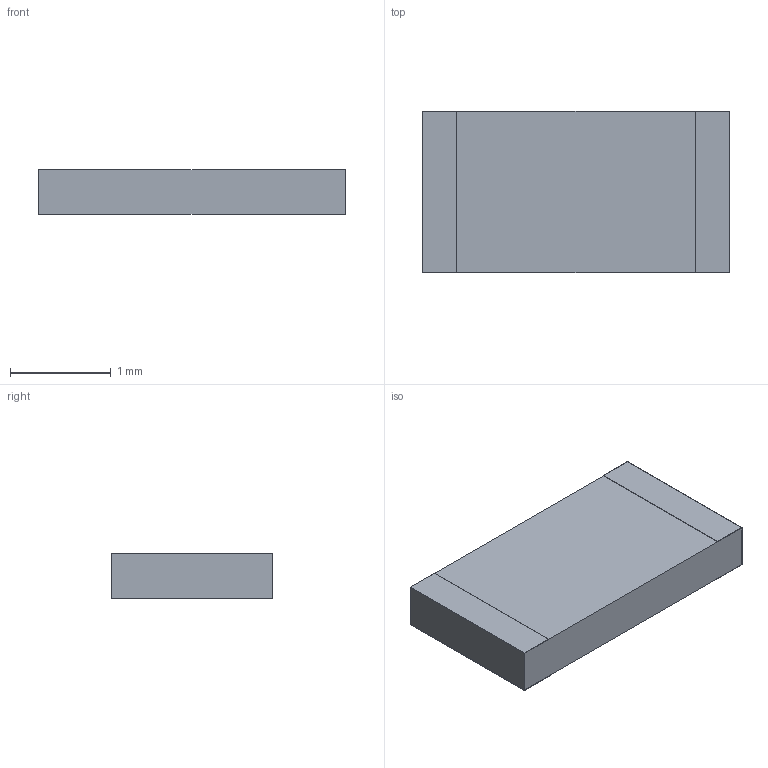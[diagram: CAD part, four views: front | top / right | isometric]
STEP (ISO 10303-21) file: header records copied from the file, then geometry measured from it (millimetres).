
FILE_DESCRIPTION(/* description */ (''),/* implementation_level */ '2;1');
FILE_NAME(/* name */ 'S:\DOCUMENT\AUTOCAD\3D_Modèles\10_3D-pour-VISHAY-COM\01_FICHIERS_ZIP_MARKETING\C4\CHPHR1206_B-or-G.stp',/* time_stamp */ '2018-01-23T13:59:21+01:00',/* author */ ('dparmentier'),/* organization */ ('unknown'),/* preprocessor_version */ 'ST-DEVELOPER v17',/* originating_system */ 'Autodesk Inventor 2018',/* authorisation */ '');
FILE_SCHEMA (('AUTOMOTIVE_DESIGN { 1 0 10303 214 3 1 1 }'));
Length unit declared in the file: millimetre
Products named in the file (1): CHPHR1206_B-or-G
Bounding box: 3.05 x 1.6 x 0.46 mm (x, y, z)
Volume: 2.2 mm3; surface area: 21.4 mm2
Topology: 3 solids, 3 shells, 26 faces, 60 edges, 40 vertices
Faces by surface type: plane 26
Entity records: 775 total; most frequent: CARTESIAN_POINT 127, ORIENTED_EDGE 120, DIRECTION 114, LINE 60, VECTOR 60, EDGE_CURVE 60, VERTEX_POINT 40, AXIS2_PLACEMENT_3D 27
